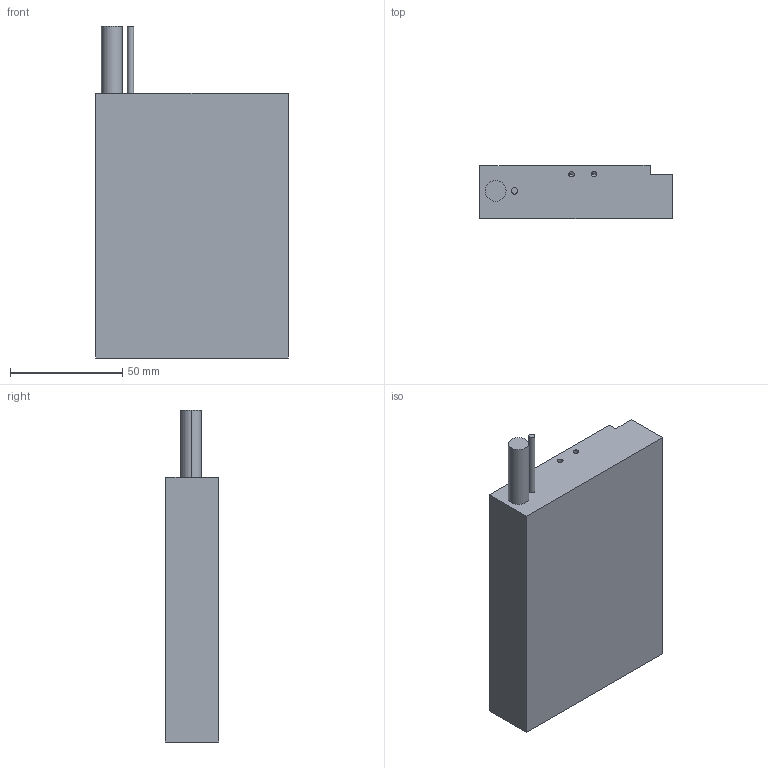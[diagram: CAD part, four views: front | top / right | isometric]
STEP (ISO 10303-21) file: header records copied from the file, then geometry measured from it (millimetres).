
FILE_DESCRIPTION (( 'STEP AP203' ), '1' );
FILE_NAME ('LMSA21.STEP', '2016-05-13T03:34:26', ( '' ), ( '' ), 'SwSTEP 2.0', 'SolidWorks 2015', '' );
FILE_SCHEMA (( 'CONFIG_CONTROL_DESIGN' ));
Length unit declared in the file: millimetre
Products named in the file (1): LMSA21
Bounding box: 86 x 23.7 x 148 mm (x, y, z)
Volume: 237315.2 mm3; surface area: 31347.7 mm2
Topology: 1 solids, 1 shells, 48 faces, 116 edges, 64 vertices
Faces by surface type: cylinder 20, cone 16, plane 12
Entity records: 1357 total; most frequent: DIRECTION 238, CARTESIAN_POINT 213, ORIENTED_EDGE 200, EDGE_CURVE 100, AXIS2_PLACEMENT_3D 89, VERTEX_POINT 64, LINE 60, VECTOR 60
